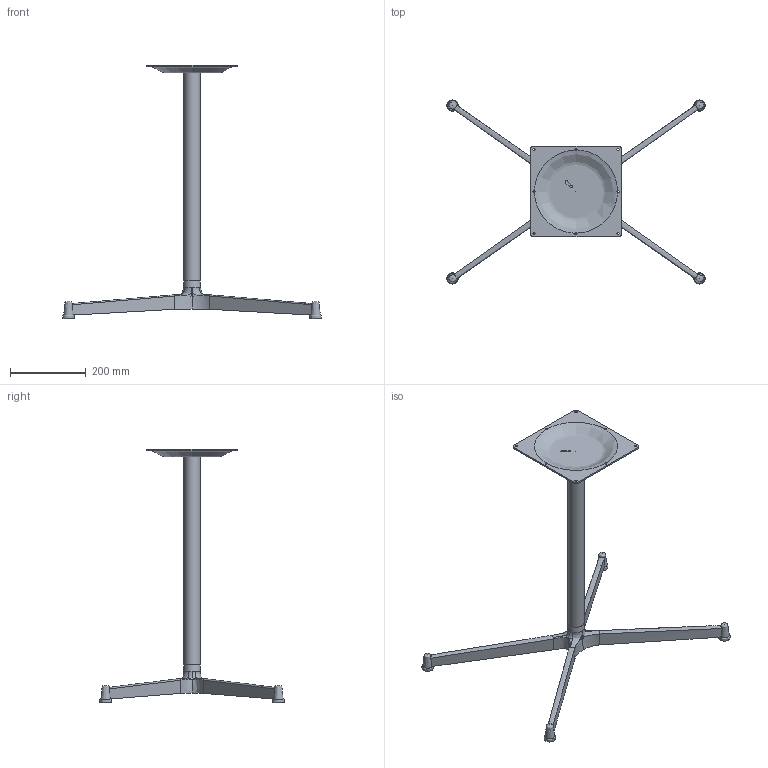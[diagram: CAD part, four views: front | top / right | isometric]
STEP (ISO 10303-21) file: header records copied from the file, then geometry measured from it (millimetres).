
FILE_DESCRIPTION(/* description */ (''),/* implementation_level */ '2;1');
FILE_NAME(/* name */ 'KINOSH~1',/* time_stamp */ '2026-02-13T18:06:33+09:00',/* author */ (''),/* organization */ (''),/* preprocessor_version */ 'ST-DEVELOPER v16.5',/* originating_system */ '',/* authorisation */ '');
FILE_SCHEMA (('AUTOMOTIVE_DESIGN'));
Length unit declared in the file: millimetre
Products named in the file (1): Document
Bounding box: 682.5 x 486.5 x 670 mm (x, y, z)
Volume: 1064719.2 mm3; surface area: 369815 mm2
Topology: 6 solids, 11 shells, 94 faces, 252 edges, 148 vertices
Faces by surface type: bspline 81, plane 13
Entity records: 7658 total; most frequent: CARTESIAN_POINT 6258, ORIENTED_EDGE 445, EDGE_CURVE 239, VERTEX_POINT 148, B_SPLINE_CURVE_WITH_KNOTS 123, EDGE_LOOP 106, ADVANCED_FACE 94, FACE_OUTER_BOUND 94
